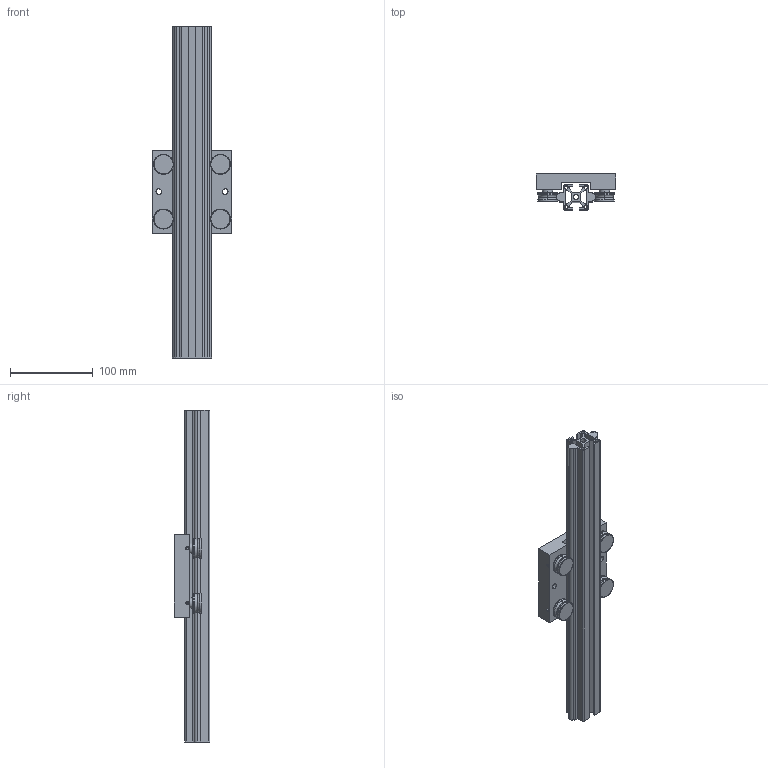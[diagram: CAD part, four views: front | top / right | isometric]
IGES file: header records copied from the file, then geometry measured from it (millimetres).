
Start section: SolidWorks IGES file using analytic representation for surfaces
Bounding box: 96 x 43 x 400 mm (x, y, z)
Surface area: 187520.3 mm2 (no closed solid volume)
Topology: 0 solids, 0 shells, 336 faces, 5022 edges, 5022 vertices
Faces by surface type: bspline 169, revolution 167
